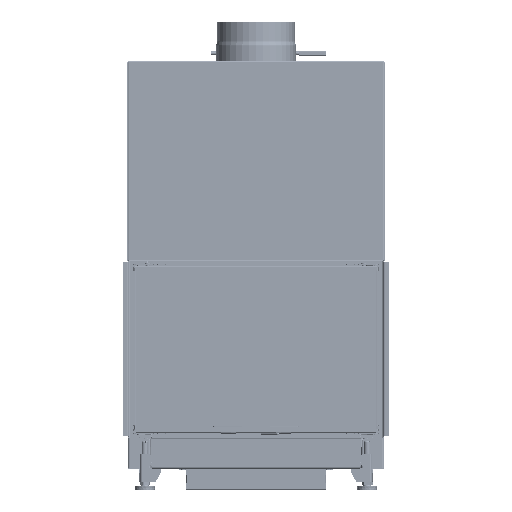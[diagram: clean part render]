
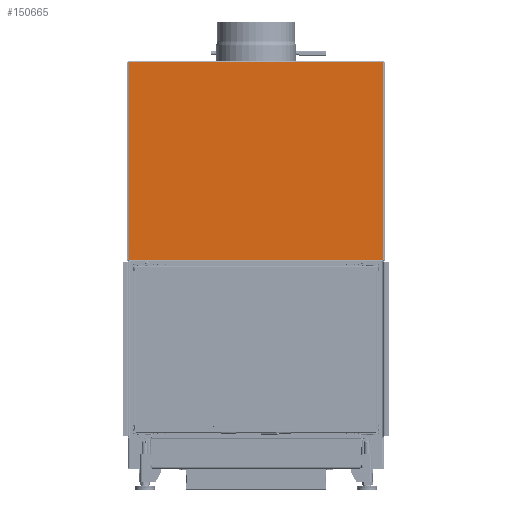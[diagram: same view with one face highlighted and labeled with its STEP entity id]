
A CAD part, front view. The second image highlights one B-rep face of the part: STEP entity #150665.
In plain terms, the highlighted planar face has unit normal (0, -1, 0).
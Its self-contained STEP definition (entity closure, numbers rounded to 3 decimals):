
#11850=FACE_OUTER_BOUND('',#20110,.T.);
#20110=EDGE_LOOP('',(#102868,#102869,#102870,#102871,#102872,#102873));
#29717=LINE('',#230484,#44830);
#29722=LINE('',#230572,#44835);
#29730=LINE('',#230791,#44843);
#29731=LINE('',#230793,#44844);
#29732=LINE('',#230797,#44845);
#29735=LINE('',#230803,#44848);
#44830=VECTOR('',#179316,10.);
#44835=VECTOR('',#179333,10.);
#44843=VECTOR('',#179355,10.);
#44844=VECTOR('',#179358,10.);
#44845=VECTOR('',#179365,10.);
#44848=VECTOR('',#179374,10.);
#60999=VERTEX_POINT('',#230465);
#61000=VERTEX_POINT('',#230476);
#61006=VERTEX_POINT('',#230565);
#61008=VERTEX_POINT('',#230571);
#61017=VERTEX_POINT('',#230782);
#61018=VERTEX_POINT('',#230789);
#76656=EDGE_CURVE('',#61000,#60999,#29717,.T.);
#76668=EDGE_CURVE('',#61008,#60999,#29722,.T.);
#76692=EDGE_CURVE('',#61017,#61018,#29730,.T.);
#76693=EDGE_CURVE('',#61006,#61008,#29731,.T.);
#76695=EDGE_CURVE('',#61018,#61006,#29732,.T.);
#76699=EDGE_CURVE('',#61000,#61017,#29735,.T.);
#102868=ORIENTED_EDGE('',*,*,#76693,.T.);
#102869=ORIENTED_EDGE('',*,*,#76668,.T.);
#102870=ORIENTED_EDGE('',*,*,#76656,.F.);
#102871=ORIENTED_EDGE('',*,*,#76699,.T.);
#102872=ORIENTED_EDGE('',*,*,#76692,.T.);
#102873=ORIENTED_EDGE('',*,*,#76695,.T.);
#141483=PLANE('',#160103);
#150665=ADVANCED_FACE('',(#11850),#141483,.T.);
#160103=AXIS2_PLACEMENT_3D('',#230802,#179372,#179373);
#179316=DIRECTION('',(1.,0.,0.));
#179333=DIRECTION('',(0.,0.,1.));
#179355=DIRECTION('',(0.,0.,-1.));
#179358=DIRECTION('',(0.,0.,1.));
#179365=DIRECTION('',(1.,0.,0.));
#179372=DIRECTION('center_axis',(0.,-1.,0.));
#179373=DIRECTION('ref_axis',(1.,0.,0.));
#179374=DIRECTION('',(0.,0.,-1.));
#230465=CARTESIAN_POINT('',(325.75,-328.5,1042.25));
#230476=CARTESIAN_POINT('',(-325.75,-328.5,1042.25));
#230484=CARTESIAN_POINT('',(0.,-328.5,1042.25));
#230565=CARTESIAN_POINT('',(325.75,-328.5,535.25));
#230571=CARTESIAN_POINT('',(325.75,-328.5,1041.57));
#230572=CARTESIAN_POINT('',(325.75,-328.5,683.846));
#230782=CARTESIAN_POINT('',(-325.75,-328.5,1041.57));
#230789=CARTESIAN_POINT('',(-325.75,-328.5,535.25));
#230791=CARTESIAN_POINT('',(-325.75,-328.5,937.346));
#230793=CARTESIAN_POINT('',(325.75,-328.5,683.846));
#230797=CARTESIAN_POINT('',(164.25,-328.5,535.25));
#230802=CARTESIAN_POINT('Origin',(0.,-328.5,
832.441));
#230803=CARTESIAN_POINT('',(-325.75,-328.5,937.346));
